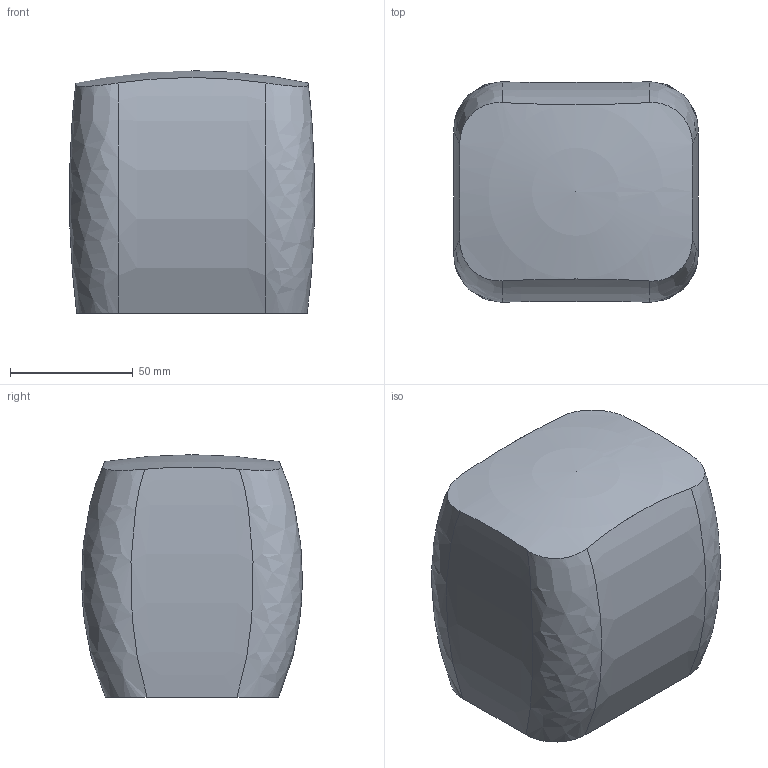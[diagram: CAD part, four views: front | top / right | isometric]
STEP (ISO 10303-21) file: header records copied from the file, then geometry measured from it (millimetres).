
FILE_DESCRIPTION(('Open CASCADE Model'),'2;1');
FILE_NAME('Open CASCADE Shape Model','2026-10-18T12:27:27',('Author'),( 'Open CASCADE'),'Open CASCADE STEP processor 8.0','Open CASCADE 8.0' ,'Unknown');
FILE_SCHEMA(('AUTOMOTIVE_DESIGN { 1 0 10303 214 1 1 1 1 }'));
Length unit declared in the file: millimetre
Products named in the file (1): Open CASCADE STEP translator 8.0 1
Bounding box: 99.88 x 89.99 x 98.88 mm (x, y, z)
Volume: 763545.1 mm3; surface area: 44743.8 mm2
Topology: 1 solids, 1 shells, 10 faces, 27 edges, 18 vertices
Faces by surface type: bspline 8, sphere 1, plane 1
Entity records: 2408 total; most frequent: CARTESIAN_POINT 2002, ORIENTED_EDGE 52, PCURVE 52, DEFINITIONAL_REPRESENTATION 52, B_SPLINE_CURVE_WITH_KNOTS 43, DIRECTION 34, EDGE_CURVE 26, LINE 26
